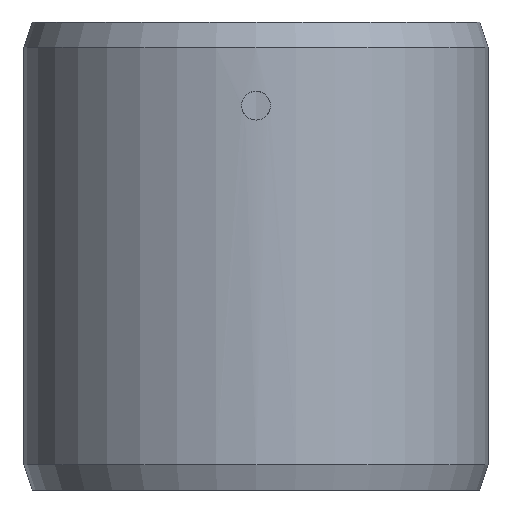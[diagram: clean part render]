
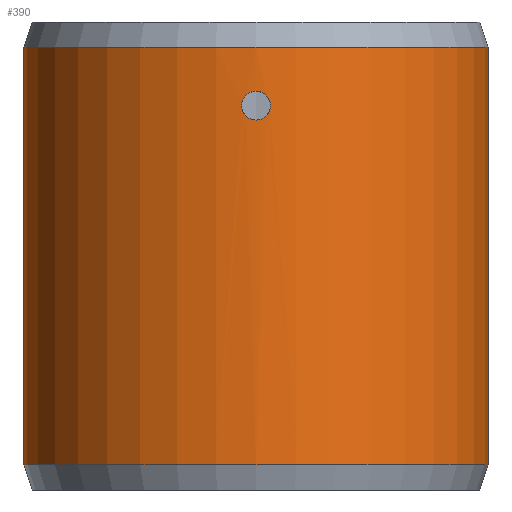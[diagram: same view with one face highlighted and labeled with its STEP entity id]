
A CAD part, front view. The second image highlights one B-rep face of the part: STEP entity #390.
In plain terms, the highlighted cylindrical face has radius 27.781 mm (diameter 55.562 mm), a partial arc.
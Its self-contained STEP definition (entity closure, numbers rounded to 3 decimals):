
#1 = DIRECTION ( 'NONE',  ( 0., 0., -1. ) ) ;
#13 = CARTESIAN_POINT ( 'NONE',  ( 27.781, 0., 25. ) ) ;
#27 = CARTESIAN_POINT ( 'NONE',  ( -1.639, -27.733, 18.556 ) ) ;
#34 = CARTESIAN_POINT ( 'NONE',  ( 27.781, 0., 28. ) ) ;
#42 = CARTESIAN_POINT ( 'NONE',  ( 0., -27.781, 16.273 ) ) ;
#54 = CARTESIAN_POINT ( 'NONE',  ( 1.3, -27.751, 19.143 ) ) ;
#60 = CARTESIAN_POINT ( 'NONE',  ( 1.375, -27.747, 16.948 ) ) ;
#84 = ORIENTED_EDGE ( 'NONE', *, *, #476, .T. ) ;
#93 = CARTESIAN_POINT ( 'NONE',  ( -27.781, 0., 25. ) ) ;
#96 = CARTESIAN_POINT ( 'NONE',  ( -0.556, -27.776, 19.639 ) ) ;
#101 = CARTESIAN_POINT ( 'NONE',  ( -1.716, -27.728, 18.227 ) ) ;
#128 = CARTESIAN_POINT ( 'NONE',  ( 1.499, -27.741, 18.866 ) ) ;
#134 = CARTESIAN_POINT ( 'NONE',  ( 1.063, -27.761, 16.62 ) ) ;
#160 = DIRECTION ( 'NONE',  ( 0., 0., -1. ) ) ;
#171 = CARTESIAN_POINT ( 'NONE',  ( -0.867, -27.768, 19.498 ) ) ;
#178 = CARTESIAN_POINT ( 'NONE',  ( -1.51, -27.74, 17.131 ) ) ;
#188 = CARTESIAN_POINT ( 'NONE',  ( -0.447, -27.778, 16.328 ) ) ;
#195 = VERTEX_POINT ( 'NONE', #744 ) ;
#198 = CARTESIAN_POINT ( 'NONE',  ( 1.638, -27.733, 18.558 ) ) ;
#204 = CARTESIAN_POINT ( 'NONE',  ( 0.455, -27.778, 16.319 ) ) ;
#208 = CARTESIAN_POINT ( 'NONE',  ( 0., 0., -25. ) ) ;
#210 = VERTEX_POINT ( 'NONE', #591 ) ;
#224 = CARTESIAN_POINT ( 'NONE',  ( -27.781, 0., 28. ) ) ;
#230 = DIRECTION ( 'NONE',  ( 0., 0., -1. ) ) ;
#239 = B_SPLINE_CURVE_WITH_KNOTS ( 'NONE', 3,
 ( #42, #490, #633, #188, #707, #267, #788, #342, #852, #692, #178, #776, #248, #618, #101, #543, #27, #474, #398, #931, #769, #244, #688, #171, #613, #96, #537, #960, #496, #349 ),
 .UNSPECIFIED., .F., .F.,
 ( 4, 2, 2, 2, 2, 2, 2, 2, 2, 2, 2, 2, 2, 2, 4 ),
 ( 0., 0., 0.001, 0.001, 0.001, 0.002, 0.003, 0.003, 0.003, 0.004, 0.004, 0.004, 0.005, 0.005, 0.005 ),
 .UNSPECIFIED. ) ;
#244 = CARTESIAN_POINT ( 'NONE',  ( -1.141, -27.758, 19.302 ) ) ;
#248 = CARTESIAN_POINT ( 'NONE',  ( -1.727, -27.728, 17.774 ) ) ;
#252 = VECTOR ( 'NONE', #1, 1000. ) ;
#253 = CARTESIAN_POINT ( 'NONE',  ( 0., 0., 28. ) ) ;
#254 = ORIENTED_EDGE ( 'NONE', *, *, #596, .T. ) ;
#267 = CARTESIAN_POINT ( 'NONE',  ( -0.766, -27.771, 16.448 ) ) ;
#268 = VECTOR ( 'NONE', #905, 1000. ) ;
#271 = CARTESIAN_POINT ( 'NONE',  ( 27.781, 0., -25. ) ) ;
#274 = CARTESIAN_POINT ( 'NONE',  ( 0.225, -27.781, 19.727 ) ) ;
#276 = CARTESIAN_POINT ( 'NONE',  ( 1.716, -27.728, 18.228 ) ) ;
#282 = CARTESIAN_POINT ( 'NONE',  ( 0., -27.781, 16.273 ) ) ;
#284 = DIRECTION ( 'NONE',  ( 1., 0., 0. ) ) ;
#306 = AXIS2_PLACEMENT_3D ( 'NONE', #208, #727, #284 ) ;
#331 = CYLINDRICAL_SURFACE ( 'NONE', #783, 27.781 ) ;
#333 = VERTEX_POINT ( 'NONE', #13 ) ;
#339 = VERTEX_POINT ( 'NONE', #521 ) ;
#342 = CARTESIAN_POINT ( 'NONE',  ( -1.053, -27.761, 16.626 ) ) ;
#347 = CARTESIAN_POINT ( 'NONE',  ( 0., -27.781, 19.727 ) ) ;
#349 = CARTESIAN_POINT ( 'NONE',  ( 0., -27.781, 19.727 ) ) ;
#353 = CARTESIAN_POINT ( 'NONE',  ( 1.727, -27.728, 18.115 ) ) ;
#379 = ORIENTED_EDGE ( 'NONE', *, *, #906, .T. ) ;
#390 = ADVANCED_FACE ( 'NONE', ( #898, #453 ), #331, .T. ) ;
#398 = CARTESIAN_POINT ( 'NONE',  ( -1.499, -27.741, 18.866 ) ) ;
#401 = EDGE_CURVE ( 'NONE', #333, #527, #794, .T. ) ;
#423 = CARTESIAN_POINT ( 'NONE',  ( 0.453, -27.778, 19.682 ) ) ;
#429 = CARTESIAN_POINT ( 'NONE',  ( 1.683, -27.73, 17.549 ) ) ;
#453 = FACE_BOUND ( 'NONE', #858, .T. ) ;
#457 = AXIS2_PLACEMENT_3D ( 'NONE', #679, #230, #752 ) ;
#474 = CARTESIAN_POINT ( 'NONE',  ( -1.553, -27.738, 18.765 ) ) ;
#476 = EDGE_CURVE ( 'NONE', #339, #195, #239, .T. ) ;
#490 = CARTESIAN_POINT ( 'NONE',  ( -0.114, -27.781, 16.273 ) ) ;
#495 = CARTESIAN_POINT ( 'NONE',  ( 1.061, -27.761, 19.381 ) ) ;
#496 = CARTESIAN_POINT ( 'NONE',  ( -0.113, -27.781, 19.727 ) ) ;
#503 = CARTESIAN_POINT ( 'NONE',  ( 1.5, -27.741, 17.136 ) ) ;
#521 = CARTESIAN_POINT ( 'NONE',  ( 0., -27.781, 16.273 ) ) ;
#527 = VERTEX_POINT ( 'NONE', #271 ) ;
#537 = CARTESIAN_POINT ( 'NONE',  ( -0.449, -27.778, 19.672 ) ) ;
#543 = CARTESIAN_POINT ( 'NONE',  ( -1.672, -27.731, 18.448 ) ) ;
#556 = EDGE_CURVE ( 'NONE', #195, #339, #770, .T. ) ;
#567 = CARTESIAN_POINT ( 'NONE',  ( 1.373, -27.747, 19.054 ) ) ;
#572 = CARTESIAN_POINT ( 'NONE',  ( 1.302, -27.751, 16.859 ) ) ;
#581 = ORIENTED_EDGE ( 'NONE', *, *, #655, .T. ) ;
#591 = CARTESIAN_POINT ( 'NONE',  ( -27.781, 0., -25. ) ) ;
#592 = EDGE_LOOP ( 'NONE', ( #817, #581, #379, #254 ) ) ;
#596 = EDGE_CURVE ( 'NONE', #210, #527, #812, .T. ) ;
#603 = CIRCLE ( 'NONE', #457, 27.781 ) ;
#613 = CARTESIAN_POINT ( 'NONE',  ( -0.766, -27.771, 19.552 ) ) ;
#618 = CARTESIAN_POINT ( 'NONE',  ( -1.727, -27.728, 18.112 ) ) ;
#633 = CARTESIAN_POINT ( 'NONE',  ( -0.226, -27.781, 16.284 ) ) ;
#646 = LINE ( 'NONE', #224, #252 ) ;
#647 = CARTESIAN_POINT ( 'NONE',  ( 1.552, -27.738, 18.767 ) ) ;
#652 = CARTESIAN_POINT ( 'NONE',  ( 0.87, -27.768, 16.491 ) ) ;
#655 = EDGE_CURVE ( 'NONE', #333, #737, #603, .T. ) ;
#679 = CARTESIAN_POINT ( 'NONE',  ( 0., 0., 25. ) ) ;
#684 = DIRECTION ( 'NONE',  ( -1., 0., 0. ) ) ;
#688 = CARTESIAN_POINT ( 'NONE',  ( -1.054, -27.761, 19.373 ) ) ;
#692 = CARTESIAN_POINT ( 'NONE',  ( -1.381, -27.747, 16.938 ) ) ;
#707 = CARTESIAN_POINT ( 'NONE',  ( -0.557, -27.776, 16.361 ) ) ;
#717 = CARTESIAN_POINT ( 'NONE',  ( 1.672, -27.731, 18.448 ) ) ;
#723 = CARTESIAN_POINT ( 'NONE',  ( 0.228, -27.781, 16.273 ) ) ;
#727 = DIRECTION ( 'NONE',  ( 0., 0., 1. ) ) ;
#737 = VERTEX_POINT ( 'NONE', #93 ) ;
#744 = CARTESIAN_POINT ( 'NONE',  ( 0., -27.781, 19.727 ) ) ;
#752 = DIRECTION ( 'NONE',  ( 1., 0., 0. ) ) ;
#769 = CARTESIAN_POINT ( 'NONE',  ( -1.302, -27.751, 19.14 ) ) ;
#770 = B_SPLINE_CURVE_WITH_KNOTS ( 'NONE', 3,
 ( #347, #274, #423, #959, #495, #54, #567, #128, #647, #198, #717, #276, #353, #882, #429, #965, #503, #60, #572, #134, #652, #204, #723, #282 ),
 .UNSPECIFIED., .F., .F.,
 ( 4, 2, 2, 2, 2, 2, 2, 2, 2, 2, 2, 4 ),
 ( 0.005, 0.006, 0.007, 0.007, 0.007, 0.008, 0.008, 0.009, 0.009, 0.009, 0.01, 0.011 ),
 .UNSPECIFIED. ) ;
#776 = CARTESIAN_POINT ( 'NONE',  ( -1.682, -27.73, 17.547 ) ) ;
#783 = AXIS2_PLACEMENT_3D ( 'NONE', #253, #160, #684 ) ;
#788 = CARTESIAN_POINT ( 'NONE',  ( -0.865, -27.768, 16.501 ) ) ;
#794 = LINE ( 'NONE', #34, #268 ) ;
#812 = CIRCLE ( 'NONE', #306, 27.781 ) ;
#817 = ORIENTED_EDGE ( 'NONE', *, *, #401, .F. ) ;
#852 = CARTESIAN_POINT ( 'NONE',  ( -1.142, -27.758, 16.699 ) ) ;
#858 = EDGE_LOOP ( 'NONE', ( #84, #860 ) ) ;
#860 = ORIENTED_EDGE ( 'NONE', *, *, #556, .T. ) ;
#882 = CARTESIAN_POINT ( 'NONE',  ( 1.727, -27.727, 17.773 ) ) ;
#898 = FACE_OUTER_BOUND ( 'NONE', #592, .T. ) ;
#905 = DIRECTION ( 'NONE',  ( 0., 0., -1. ) ) ;
#906 = EDGE_CURVE ( 'NONE', #737, #210, #646, .T. ) ;
#931 = CARTESIAN_POINT ( 'NONE',  ( -1.374, -27.747, 19.053 ) ) ;
#959 = CARTESIAN_POINT ( 'NONE',  ( 0.868, -27.768, 19.51 ) ) ;
#960 = CARTESIAN_POINT ( 'NONE',  ( -0.227, -27.781, 19.716 ) ) ;
#965 = CARTESIAN_POINT ( 'NONE',  ( 1.553, -27.738, 17.235 ) ) ;
